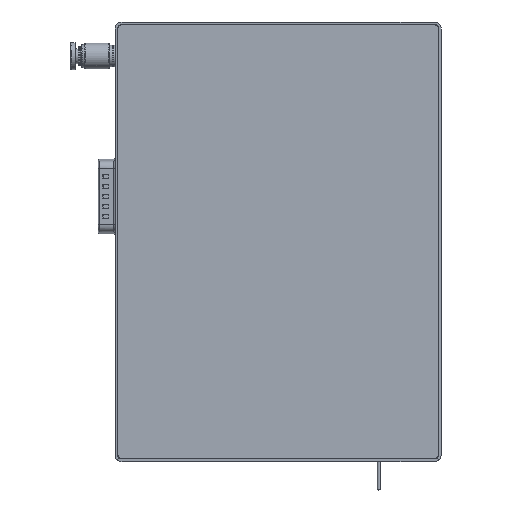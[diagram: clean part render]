
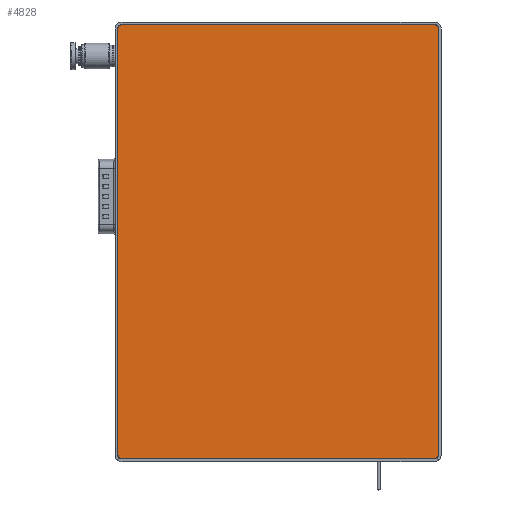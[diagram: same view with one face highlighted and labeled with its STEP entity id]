
A CAD part, top view. The second image highlights one B-rep face of the part: STEP entity #4828.
In plain terms, the highlighted planar face has unit normal (0, 0, 1) as drawn and (-1, 0, 0) by its records, which use the part's own axes.
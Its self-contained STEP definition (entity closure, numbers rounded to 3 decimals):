
#817 = LINE ( 'NONE', #19847, #20298 ) ;
#1047 = DIRECTION ( 'NONE',  ( -1., 0., 0. ) ) ;
#1174 = AXIS2_PLACEMENT_3D ( 'NONE', #11626, #30331, #16678 ) ;
#2211 = DIRECTION ( 'NONE',  ( -1., 0., 0. ) ) ;
#2430 = VERTEX_POINT ( 'NONE', #22573 ) ;
#2555 = VERTEX_POINT ( 'NONE', #3890 ) ;
#3635 = DIRECTION ( 'NONE',  ( 0., 0., 1. ) ) ;
#3890 = CARTESIAN_POINT ( 'NONE',  ( 0., 75.5, -56.5 ) ) ;
#4017 = EDGE_CURVE ( 'NONE', #18091, #14594, #817, .T. ) ;
#4581 = CARTESIAN_POINT ( 'NONE',  ( 0., -76.5, -55.5 ) ) ;
#4828 = ADVANCED_FACE ( 'NONE', ( #25689 ), #5930, .F. ) ;
#5324 = CARTESIAN_POINT ( 'NONE',  ( 0., -75.5, -56.5 ) ) ;
#5797 = EDGE_CURVE ( 'NONE', #2430, #14594, #30721, .T. ) ;
#5930 = PLANE ( 'NONE',  #12330 ) ;
#6099 = DIRECTION ( 'NONE',  ( 0., 0., -1. ) ) ;
#7739 = EDGE_LOOP ( 'NONE', ( #19522, #35361, #16898, #25359, #9364, #30218, #19970, #33457 ) ) ;
#8044 = EDGE_CURVE ( 'NONE', #2430, #17169, #11481, .T. ) ;
#9182 = CIRCLE ( 'NONE', #1174, 1. ) ;
#9364 = ORIENTED_EDGE ( 'NONE', *, *, #8044, .F. ) ;
#9654 = DIRECTION ( 'NONE',  ( 0., 0., -1. ) ) ;
#10009 = DIRECTION ( 'NONE',  ( -1., 0., 0. ) ) ;
#11481 = LINE ( 'NONE', #16540, #21583 ) ;
#11498 = DIRECTION ( 'NONE',  ( 1., 0., 0. ) ) ;
#11626 = CARTESIAN_POINT ( 'NONE',  ( 0., 75.5, -55.5 ) ) ;
#12112 = DIRECTION ( 'NONE',  ( 0., -1., 0. ) ) ;
#12330 = AXIS2_PLACEMENT_3D ( 'NONE', #25159, #11498, #6099 ) ;
#14594 = VERTEX_POINT ( 'NONE', #23903 ) ;
#14781 = CARTESIAN_POINT ( 'NONE',  ( 0., 76.5, 56.5 ) ) ;
#15371 = CARTESIAN_POINT ( 'NONE',  ( 0., 76.5, -55.5 ) ) ;
#15415 = CARTESIAN_POINT ( 'NONE',  ( 0., -75.5, -55.5 ) ) ;
#16540 = CARTESIAN_POINT ( 'NONE',  ( 0., -76.5, 56.5 ) ) ;
#16678 = DIRECTION ( 'NONE',  ( 0., 0., -1. ) ) ;
#16898 = ORIENTED_EDGE ( 'NONE', *, *, #17859, .F. ) ;
#17169 = VERTEX_POINT ( 'NONE', #4581 ) ;
#17551 = DIRECTION ( 'NONE',  ( 0., 0., -1. ) ) ;
#17859 = EDGE_CURVE ( 'NONE', #27909, #2555, #26337, .T. ) ;
#17900 = AXIS2_PLACEMENT_3D ( 'NONE', #15415, #10009, #9654 ) ;
#18091 = VERTEX_POINT ( 'NONE', #33323 ) ;
#18620 = EDGE_CURVE ( 'NONE', #34710, #2555, #9182, .T. ) ;
#19061 = CIRCLE ( 'NONE', #25363, 1. ) ;
#19336 = VERTEX_POINT ( 'NONE', #19458 ) ;
#19401 = DIRECTION ( 'NONE',  ( 0., 0., -1. ) ) ;
#19458 = CARTESIAN_POINT ( 'NONE',  ( 0., 76.5, 55.5 ) ) ;
#19522 = ORIENTED_EDGE ( 'NONE', *, *, #19588, .F. ) ;
#19588 = EDGE_CURVE ( 'NONE', #34710, #19336, #31123, .T. ) ;
#19847 = CARTESIAN_POINT ( 'NONE',  ( 0., 76.5, 56.5 ) ) ;
#19970 = ORIENTED_EDGE ( 'NONE', *, *, #4017, .F. ) ;
#20298 = VECTOR ( 'NONE', #12112, 1000. ) ;
#20935 = DIRECTION ( 'NONE',  ( 0., 1., 0. ) ) ;
#21227 = DIRECTION ( 'NONE',  ( 0., 0., -1. ) ) ;
#21583 = VECTOR ( 'NONE', #19401, 1000. ) ;
#22573 = CARTESIAN_POINT ( 'NONE',  ( 0., -76.5, 55.5 ) ) ;
#23481 = CARTESIAN_POINT ( 'NONE',  ( 0., 75.5, 55.5 ) ) ;
#23903 = CARTESIAN_POINT ( 'NONE',  ( 0., -75.5, 56.5 ) ) ;
#25159 = CARTESIAN_POINT ( 'NONE',  ( 0., 0., 0. ) ) ;
#25359 = ORIENTED_EDGE ( 'NONE', *, *, #27787, .T. ) ;
#25363 = AXIS2_PLACEMENT_3D ( 'NONE', #23481, #1047, #17551 ) ;
#25560 = AXIS2_PLACEMENT_3D ( 'NONE', #26986, #2211, #21227 ) ;
#25689 = FACE_OUTER_BOUND ( 'NONE', #7739, .T. ) ;
#26337 = LINE ( 'NONE', #28866, #30375 ) ;
#26986 = CARTESIAN_POINT ( 'NONE',  ( 0., -75.5, 55.5 ) ) ;
#27787 = EDGE_CURVE ( 'NONE', #27909, #17169, #31107, .T. ) ;
#27811 = EDGE_CURVE ( 'NONE', #18091, #19336, #19061, .T. ) ;
#27909 = VERTEX_POINT ( 'NONE', #5324 ) ;
#28866 = CARTESIAN_POINT ( 'NONE',  ( 0., 76.5, -56.5 ) ) ;
#29896 = VECTOR ( 'NONE', #3635, 1000. ) ;
#30218 = ORIENTED_EDGE ( 'NONE', *, *, #5797, .T. ) ;
#30331 = DIRECTION ( 'NONE',  ( -1., 0., 0. ) ) ;
#30375 = VECTOR ( 'NONE', #20935, 1000. ) ;
#30721 = CIRCLE ( 'NONE', #25560, 1. ) ;
#31107 = CIRCLE ( 'NONE', #17900, 1. ) ;
#31123 = LINE ( 'NONE', #14781, #29896 ) ;
#33323 = CARTESIAN_POINT ( 'NONE',  ( 0., 75.5, 56.5 ) ) ;
#33457 = ORIENTED_EDGE ( 'NONE', *, *, #27811, .T. ) ;
#34710 = VERTEX_POINT ( 'NONE', #15371 ) ;
#35361 = ORIENTED_EDGE ( 'NONE', *, *, #18620, .T. ) ;
